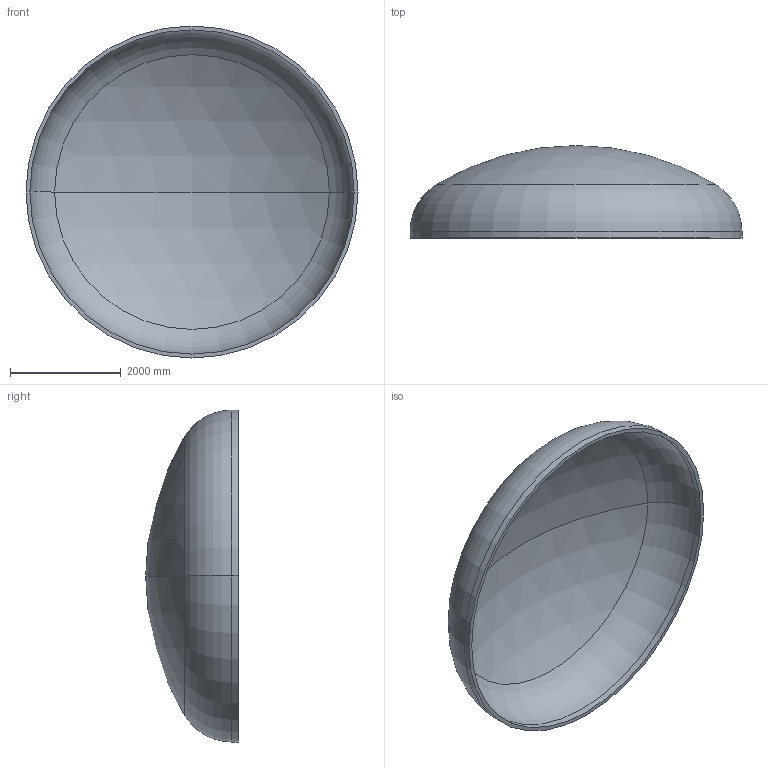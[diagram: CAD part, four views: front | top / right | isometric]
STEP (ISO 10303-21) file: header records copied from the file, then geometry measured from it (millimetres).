
FILE_DESCRIPTION (( 'STEP AP203' ), '1' );
FILE_NAME ('DIN 28013 Korbbogenform_-_Boden DIN 28013 - 6000 x 120 - I - s=70.step', '2016-07-04T10:37:56', ( '' ), ( '' ), 'SwSTEP 2.0', 'SolidWorks 2013', '' );
FILE_SCHEMA (( 'CONFIG_CONTROL_DESIGN' ));
Length unit declared in the file: millimetre
Products named in the file (1): DIN 28013 Korbbogenform_-_Boden DIN 28013 - 6000 x 120 - I - s=70
Bounding box: 6000 x 1674.04 x 6000 mm (x, y, z)
Volume: 2856269261.9 mm3; surface area: 82922000.1 mm2
Topology: 1 solids, 1 shells, 13 faces, 24 edges, 14 vertices
Faces by surface type: torus 4, cylinder 4, sphere 4, plane 1
Entity records: 407 total; most frequent: DIRECTION 72, CARTESIAN_POINT 52, ORIENTED_EDGE 48, AXIS2_PLACEMENT_3D 34, EDGE_CURVE 24, CIRCLE 20, EDGE_LOOP 14, VERTEX_POINT 14
